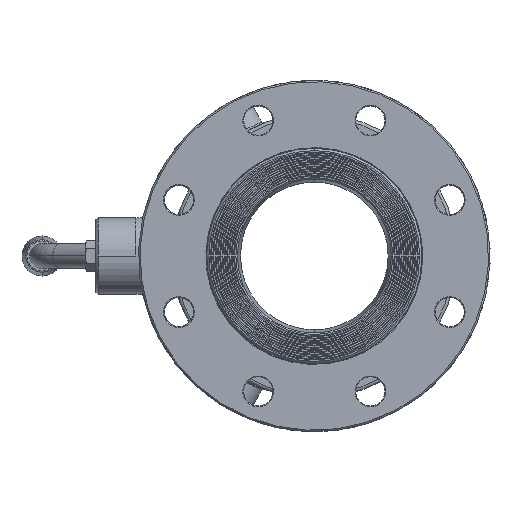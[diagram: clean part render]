
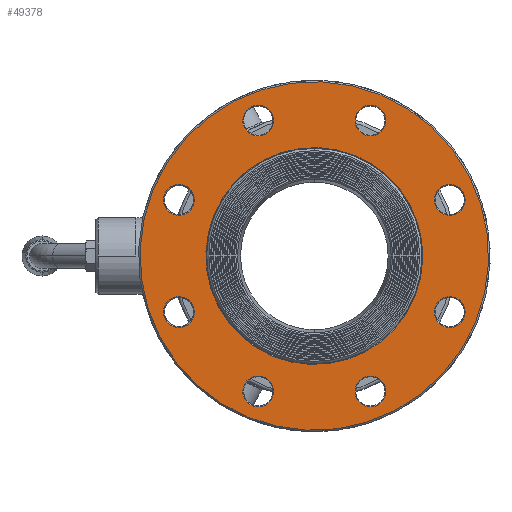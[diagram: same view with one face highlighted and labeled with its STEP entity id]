
A CAD part, left-side view. The second image highlights one B-rep face of the part: STEP entity #49378.
In plain terms, the highlighted planar face has unit normal (-1, 0, 0).
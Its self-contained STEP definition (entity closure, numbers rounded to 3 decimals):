
#5406=CARTESIAN_POINT('',(-93.,0.,0.));
#5407=DIRECTION('',(-1.,0.,0.));
#5408=DIRECTION('',(0.,-0.383,0.924));
#5409=AXIS2_PLACEMENT_3D('',#5406,#5407,#5408);
#5414=CARTESIAN_POINT('',(-93.,0.,0.));
#5415=DIRECTION('',(-1.,0.,0.));
#5416=DIRECTION('',(0.,0.383,-0.924));
#5417=AXIS2_PLACEMENT_3D('',#5414,#5415,#5416);
#5422=CARTESIAN_POINT('',(-93.,36.451,-88.));
#5423=DIRECTION('',(1.,0.,0.));
#5424=DIRECTION('',(0.,-0.383,0.924));
#5425=AXIS2_PLACEMENT_3D('',#5422,#5423,#5424);
#5430=CARTESIAN_POINT('',(-93.,36.451,-88.));
#5431=DIRECTION('',(1.,0.,0.));
#5432=DIRECTION('',(0.,0.383,-0.924));
#5433=AXIS2_PLACEMENT_3D('',#5430,#5431,#5432);
#5438=CARTESIAN_POINT('',(-93.,-36.451,-88.));
#5439=DIRECTION('',(1.,0.,0.));
#5440=DIRECTION('',(0.,-0.383,0.924));
#5441=AXIS2_PLACEMENT_3D('',#5438,#5439,#5440);
#5446=CARTESIAN_POINT('',(-93.,-36.451,-88.));
#5447=DIRECTION('',(1.,0.,0.));
#5448=DIRECTION('',(0.,0.383,-0.924));
#5449=AXIS2_PLACEMENT_3D('',#5446,#5447,#5448);
#5454=CARTESIAN_POINT('',(-93.,-88.,-36.451));
#5455=DIRECTION('',(1.,0.,0.));
#5456=DIRECTION('',(0.,-0.383,0.924));
#5457=AXIS2_PLACEMENT_3D('',#5454,#5455,#5456);
#5462=CARTESIAN_POINT('',(-93.,-88.,-36.451));
#5463=DIRECTION('',(1.,0.,0.));
#5464=DIRECTION('',(0.,0.383,-0.924));
#5465=AXIS2_PLACEMENT_3D('',#5462,#5463,#5464);
#5470=CARTESIAN_POINT('',(-93.,88.,-36.451));
#5471=DIRECTION('',(1.,0.,0.));
#5472=DIRECTION('',(0.,-0.383,0.924));
#5473=AXIS2_PLACEMENT_3D('',#5470,#5471,#5472);
#5478=CARTESIAN_POINT('',(-93.,88.,-36.451));
#5479=DIRECTION('',(1.,0.,0.));
#5480=DIRECTION('',(0.,0.383,-0.924));
#5481=AXIS2_PLACEMENT_3D('',#5478,#5479,#5480);
#5486=CARTESIAN_POINT('',(-93.,88.,36.451));
#5487=DIRECTION('',(1.,0.,0.));
#5488=DIRECTION('',(0.,-0.383,0.924));
#5489=AXIS2_PLACEMENT_3D('',#5486,#5487,#5488);
#5494=CARTESIAN_POINT('',(-93.,88.,36.451));
#5495=DIRECTION('',(1.,0.,0.));
#5496=DIRECTION('',(0.,0.383,-0.924));
#5497=AXIS2_PLACEMENT_3D('',#5494,#5495,#5496);
#5502=CARTESIAN_POINT('',(-93.,36.451,88.));
#5503=DIRECTION('',(1.,0.,0.));
#5504=DIRECTION('',(0.,0.383,-0.924));
#5505=AXIS2_PLACEMENT_3D('',#5502,#5503,#5504);
#5510=CARTESIAN_POINT('',(-93.,36.451,88.));
#5511=DIRECTION('',(1.,0.,0.));
#5512=DIRECTION('',(0.,-0.383,0.924));
#5513=AXIS2_PLACEMENT_3D('',#5510,#5511,#5512);
#5518=CARTESIAN_POINT('',(-93.,-36.451,88.));
#5519=DIRECTION('',(1.,0.,0.));
#5520=DIRECTION('',(0.,-0.383,0.924));
#5521=AXIS2_PLACEMENT_3D('',#5518,#5519,#5520);
#5526=CARTESIAN_POINT('',(-93.,-36.451,88.));
#5527=DIRECTION('',(1.,0.,0.));
#5528=DIRECTION('',(0.,0.383,-0.924));
#5529=AXIS2_PLACEMENT_3D('',#5526,#5527,#5528);
#5534=CARTESIAN_POINT('',(-93.,-88.,36.451));
#5535=DIRECTION('',(1.,0.,0.));
#5536=DIRECTION('',(0.,-0.383,0.924));
#5537=AXIS2_PLACEMENT_3D('',#5534,#5535,#5536);
#5542=CARTESIAN_POINT('',(-93.,-88.,36.451));
#5543=DIRECTION('',(1.,0.,0.));
#5544=DIRECTION('',(0.,0.383,-0.924));
#5545=AXIS2_PLACEMENT_3D('',#5542,#5543,#5544);
#5550=CARTESIAN_POINT('',(-93.,0.,0.));
#5551=DIRECTION('',(-1.,0.,0.));
#5552=DIRECTION('',(0.,0.383,-0.924));
#5553=AXIS2_PLACEMENT_3D('',#5550,#5551,#5552);
#5558=CARTESIAN_POINT('',(-93.,0.,0.));
#5559=DIRECTION('',(-1.,0.,0.));
#5560=DIRECTION('',(0.,-0.383,0.924));
#5561=AXIS2_PLACEMENT_3D('',#5558,#5559,#5560);
#44548=CARTESIAN_POINT('',(-93.,32.624,-78.761));
#44549=CARTESIAN_POINT('',(-93.,40.277,-97.238));
#44550=VERTEX_POINT('',#44548);
#44551=VERTEX_POINT('',#44549);
#44556=CARTESIAN_POINT('',(-93.,-40.277,-78.761));
#44557=CARTESIAN_POINT('',(-93.,-32.624,-97.238));
#44558=VERTEX_POINT('',#44556);
#44559=VERTEX_POINT('',#44557);
#44564=CARTESIAN_POINT('',(-93.,-91.826,-27.212));
#44565=CARTESIAN_POINT('',(-93.,-84.173,-45.689));
#44566=VERTEX_POINT('',#44564);
#44567=VERTEX_POINT('',#44565);
#44572=CARTESIAN_POINT('',(-93.,84.173,-27.212));
#44573=CARTESIAN_POINT('',(-93.,91.826,-45.689));
#44574=VERTEX_POINT('',#44572);
#44575=VERTEX_POINT('',#44573);
#44580=CARTESIAN_POINT('',(-93.,84.173,45.689));
#44581=CARTESIAN_POINT('',(-93.,91.826,27.212));
#44582=VERTEX_POINT('',#44580);
#44583=VERTEX_POINT('',#44581);
#44588=CARTESIAN_POINT('',(-93.,40.277,78.761));
#44589=CARTESIAN_POINT('',(-93.,32.624,97.238));
#44590=VERTEX_POINT('',#44588);
#44591=VERTEX_POINT('',#44589);
#44596=CARTESIAN_POINT('',(-93.,-40.277,97.238));
#44597=CARTESIAN_POINT('',(-93.,-32.624,78.761));
#44598=VERTEX_POINT('',#44596);
#44599=VERTEX_POINT('',#44597);
#44604=CARTESIAN_POINT('',(-93.,-91.826,45.689));
#44605=CARTESIAN_POINT('',(-93.,-84.173,27.212));
#44606=VERTEX_POINT('',#44604);
#44607=VERTEX_POINT('',#44605);
#44676=CARTESIAN_POINT('',(-93.,-43.358,104.676));
#44677=CARTESIAN_POINT('',(-93.,43.358,-104.676));
#44678=VERTEX_POINT('',#44676);
#44679=VERTEX_POINT('',#44677);
#44700=CARTESIAN_POINT('',(-93.,26.979,-65.134));
#44701=CARTESIAN_POINT('',(-93.,-26.979,65.134));
#44702=VERTEX_POINT('',#44700);
#44703=VERTEX_POINT('',#44701);
#49315=CARTESIAN_POINT('',(-93.,0.,0.));
#49316=DIRECTION('',(-1.,0.,0.));
#49317=DIRECTION('',(0.,-0.383,0.924));
#49318=AXIS2_PLACEMENT_3D('',#49315,#49316,#49317);
#49319=PLANE('',#49318);
#49321=ORIENTED_EDGE('',*,*,#49320,.F.);
#49323=ORIENTED_EDGE('',*,*,#49322,.F.);
#49324=EDGE_LOOP('',(#49321,#49323));
#49325=FACE_OUTER_BOUND('',#49324,.F.);
#49327=ORIENTED_EDGE('',*,*,#49326,.F.);
#49329=ORIENTED_EDGE('',*,*,#49328,.F.);
#49330=EDGE_LOOP('',(#49327,#49329));
#49331=FACE_BOUND('',#49330,.F.);
#49333=ORIENTED_EDGE('',*,*,#49332,.F.);
#49335=ORIENTED_EDGE('',*,*,#49334,.F.);
#49336=EDGE_LOOP('',(#49333,#49335));
#49337=FACE_BOUND('',#49336,.F.);
#49339=ORIENTED_EDGE('',*,*,#49338,.F.);
#49341=ORIENTED_EDGE('',*,*,#49340,.F.);
#49342=EDGE_LOOP('',(#49339,#49341));
#49343=FACE_BOUND('',#49342,.F.);
#49345=ORIENTED_EDGE('',*,*,#49344,.F.);
#49347=ORIENTED_EDGE('',*,*,#49346,.F.);
#49348=EDGE_LOOP('',(#49345,#49347));
#49349=FACE_BOUND('',#49348,.F.);
#49351=ORIENTED_EDGE('',*,*,#49350,.F.);
#49353=ORIENTED_EDGE('',*,*,#49352,.F.);
#49354=EDGE_LOOP('',(#49351,#49353));
#49355=FACE_BOUND('',#49354,.F.);
#49357=ORIENTED_EDGE('',*,*,#49356,.F.);
#49359=ORIENTED_EDGE('',*,*,#49358,.F.);
#49360=EDGE_LOOP('',(#49357,#49359));
#49361=FACE_BOUND('',#49360,.F.);
#49363=ORIENTED_EDGE('',*,*,#49362,.F.);
#49365=ORIENTED_EDGE('',*,*,#49364,.F.);
#49366=EDGE_LOOP('',(#49363,#49365));
#49367=FACE_BOUND('',#49366,.F.);
#49369=ORIENTED_EDGE('',*,*,#49368,.F.);
#49371=ORIENTED_EDGE('',*,*,#49370,.F.);
#49372=EDGE_LOOP('',(#49369,#49371));
#49373=FACE_BOUND('',#49372,.F.);
#49374=ORIENTED_EDGE('',*,*,#49308,.T.);
#49375=ORIENTED_EDGE('',*,*,#49280,.T.);
#49376=EDGE_LOOP('',(#49374,#49375));
#49377=FACE_BOUND('',#49376,.F.);
#49378=ADVANCED_FACE('',(#49325,#49331,#49337,#49343,#49349,#49355,#49361,
#49367,#49373,#49377),#49319,.T.);
#5410=CIRCLE('',#5409,113.3);
#5418=CIRCLE('',#5417,113.3);
#5426=CIRCLE('',#5425,10.);
#5434=CIRCLE('',#5433,10.);
#5442=CIRCLE('',#5441,10.);
#5450=CIRCLE('',#5449,10.);
#5458=CIRCLE('',#5457,10.);
#5466=CIRCLE('',#5465,10.);
#5474=CIRCLE('',#5473,10.);
#5482=CIRCLE('',#5481,10.);
#5490=CIRCLE('',#5489,10.);
#5498=CIRCLE('',#5497,10.);
#5506=CIRCLE('',#5505,10.);
#5514=CIRCLE('',#5513,10.);
#5522=CIRCLE('',#5521,10.);
#5530=CIRCLE('',#5529,10.);
#5538=CIRCLE('',#5537,10.);
#5546=CIRCLE('',#5545,10.);
#5554=CIRCLE('',#5553,70.5);
#5562=CIRCLE('',#5561,70.5);
#49280=EDGE_CURVE('',#44703,#44702,#5562,.T.);
#49308=EDGE_CURVE('',#44702,#44703,#5554,.T.);
#49320=EDGE_CURVE('',#44678,#44679,#5410,.T.);
#49322=EDGE_CURVE('',#44679,#44678,#5418,.T.);
#49326=EDGE_CURVE('',#44550,#44551,#5426,.T.);
#49328=EDGE_CURVE('',#44551,#44550,#5434,.T.);
#49332=EDGE_CURVE('',#44558,#44559,#5442,.T.);
#49334=EDGE_CURVE('',#44559,#44558,#5450,.T.);
#49338=EDGE_CURVE('',#44566,#44567,#5458,.T.);
#49340=EDGE_CURVE('',#44567,#44566,#5466,.T.);
#49344=EDGE_CURVE('',#44574,#44575,#5474,.T.);
#49346=EDGE_CURVE('',#44575,#44574,#5482,.T.);
#49350=EDGE_CURVE('',#44582,#44583,#5490,.T.);
#49352=EDGE_CURVE('',#44583,#44582,#5498,.T.);
#49356=EDGE_CURVE('',#44590,#44591,#5506,.T.);
#49358=EDGE_CURVE('',#44591,#44590,#5514,.T.);
#49362=EDGE_CURVE('',#44598,#44599,#5522,.T.);
#49364=EDGE_CURVE('',#44599,#44598,#5530,.T.);
#49368=EDGE_CURVE('',#44606,#44607,#5538,.T.);
#49370=EDGE_CURVE('',#44607,#44606,#5546,.T.);
